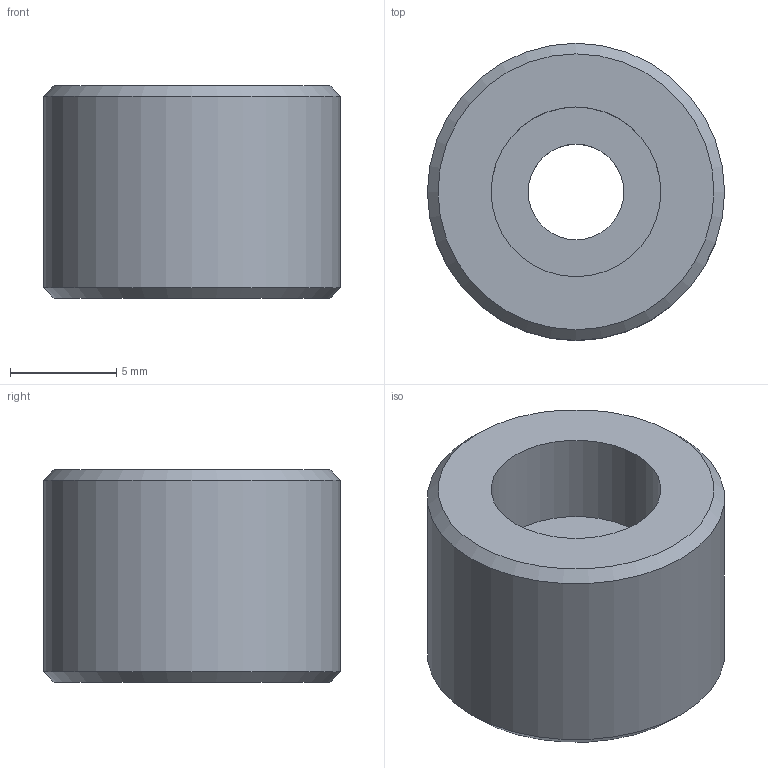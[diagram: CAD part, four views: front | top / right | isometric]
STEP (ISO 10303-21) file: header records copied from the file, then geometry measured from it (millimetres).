
FILE_DESCRIPTION(/* description */ (''),/* implementation_level */ '2;1');
FILE_NAME(/* name */ '',/* time_stamp */ '2026-04-27T11:27:42+09:00',/* author */ ('jhkim'),/* organization */ (''),/* preprocessor_version */ 'ST-DEVELOPER v20.1',/* originating_system */ 'Autodesk Inventor 2027',/* authorisation */ '');
FILE_SCHEMA (('AUTOMOTIVE_DESIGN { 1 0 10303 214 3 1 1 }'));
Length unit declared in the file: millimetre
Products named in the file (1): 엔드 캡
Bounding box: 14 x 14 x 10 mm (x, y, z)
Volume: 1218.4 mm3; surface area: 879.2 mm2
Topology: 1 solids, 1 shells, 8 faces, 15 edges, 10 vertices
Faces by surface type: cylinder 3, plane 3, cone 2
Full cylindrical faces by diameter (mm): 4.5 x1, 8 x1, 14 x1
Entity records: 256 total; most frequent: DIRECTION 43, CARTESIAN_POINT 34, ORIENTED_EDGE 30, AXIS2_PLACEMENT_3D 19, EDGE_CURVE 15, EDGE_LOOP 11, CIRCLE 10, VERTEX_POINT 10
